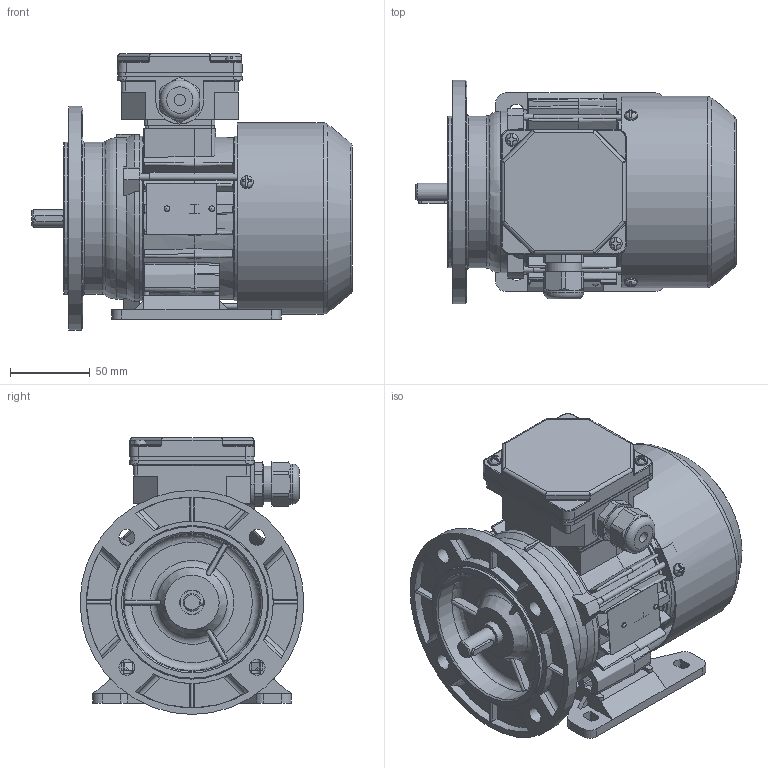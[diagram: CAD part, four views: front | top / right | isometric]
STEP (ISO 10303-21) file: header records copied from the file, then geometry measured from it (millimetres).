
FILE_DESCRIPTION( ( 'Unknown' ), '1' );
FILE_NAME( 'G:/Poczta Tk-1/STP/w.m.63/Sh63/SLh63-A.stp', 'Unknown', ( 'K. Szlosek' ), ( 'BESEL S.A.' ), 'PSStep 17.0.49', 'Unknown', ' ' );
FILE_SCHEMA( ( 'AUTOMOTIVE_DESIGN { 1 0 10303 214 1 1 1 1 }' ) );
Length unit declared in the file: millimetre
Products named in the file (30): Assem1; K2-0860 Pokrywka skrzynki zaciskowej; K3-9973 Kadłub ze stojanem wykończonym Sh63-B; Wpust A4x4x18; K3-5320 Tarcza łożyskowa P Sg63; Wkręt samogwintujący M4x8; K3-9974 Wał Sh63-B; K2-1769 Przewietrznik Sg63; K4-2320 Uszczelka nr 1 Sh71,80; K4-2820 Uszczelka nr 2 Sh71,80; Wkręt samogwintujący M4x16; Nitokołek A 2x6; K3-11364 osłona przewietrznika Sh63-A; Łożysko 6202; Śruba ściągająca E_M4x80; K2-0859 Podstawa skrzynki 6-cio zaciskowej; Dławnica M20x1,5; Tabliczka znamionowa 32x44; K1-1110 Tarcza kołnierzowa nowa SKg63-..; K1-1107 Łapa Sg63-.. w. robocza
Assembly tree (46 placements, depth 2):
  Assem1
    K2-0860 Pokrywka skrzynki zaciskowej
    K3-9973 Kadłub ze stojanem wykończonym Sh63-B
    Wpust A4x4x18
    K3-5320 Tarcza łożyskowa P Sg63
    Wkręt samogwintujący M4x8  x3
    K3-9974 Wał Sh63-B
    K2-1769 Przewietrznik Sg63
    K4-2320 Uszczelka nr 1 Sh71,80
    K4-2820 Uszczelka nr 2 Sh71,80
    Wkręt samogwintujący M4x16  x2
    Nitokołek A 2x6  x2
    K3-11364 osłona przewietrznika Sh63-A
    Łożysko 6202  x2
    Łożysko 6202  x2
    Łożysko 6202  x2
    Łożysko 6202  x2
    Łożysko 6202  x2
    Łożysko 6202  x2
    Łożysko 6202  x2
    Łożysko 6202  x2
    Łożysko 6202  x2
    Łożysko 6202  x2
    Łożysko 6202  x2
    Śruba ściągająca E_M4x80  x3
    K2-0859 Podstawa skrzynki 6-cio zaciskowej
    Dławnica M20x1,5
    Tabliczka znamionowa 32x44
    K1-1110 Tarcza kołnierzowa nowa SKg63-..
    K1-1107 Łapa Sg63-.. w. robocza
Bounding box: 200.3 x 140 x 173 mm (x, y, z)
Volume: 583108.6 mm3; surface area: 371344.5 mm2
Topology: 46 solids, 64 shells, 1984 faces, 5456 edges, 3541 vertices
Faces by surface type: plane 1016, cylinder 592, cone 128, torus 112, bspline 97, sphere 39
Full cylindrical faces by diameter (mm): 2 x2, 2.4 x2, 3.3 x3, 3.7 x10, 4 x8, 4.5 x4, 4.8 x4, 5 x4, 5.8 x4, 7 x4, 8 x6, 10 x4, 11 x1, 12.9 x1, 13.1 x1, 13.5 x1, 15 x4, 15.4 x2, 18.376 x1, 18.38 x1, 19 x2, 19.5 x1, 20 x2, 20.1 x1, 21.52 x4, 22.3 x1, 25 x1, 28 x2, 28.48 x4, 31 x2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
Entity records: 84867 total; most frequent: CARTESIAN_POINT 25701, ORIENTED_EDGE 9456, DIRECTION 9150, EDGE_CURVE 4728, AXIS2_PLACEMENT_3D 3365, VERTEX_POINT 3214, LINE 2420, VECTOR 2420
